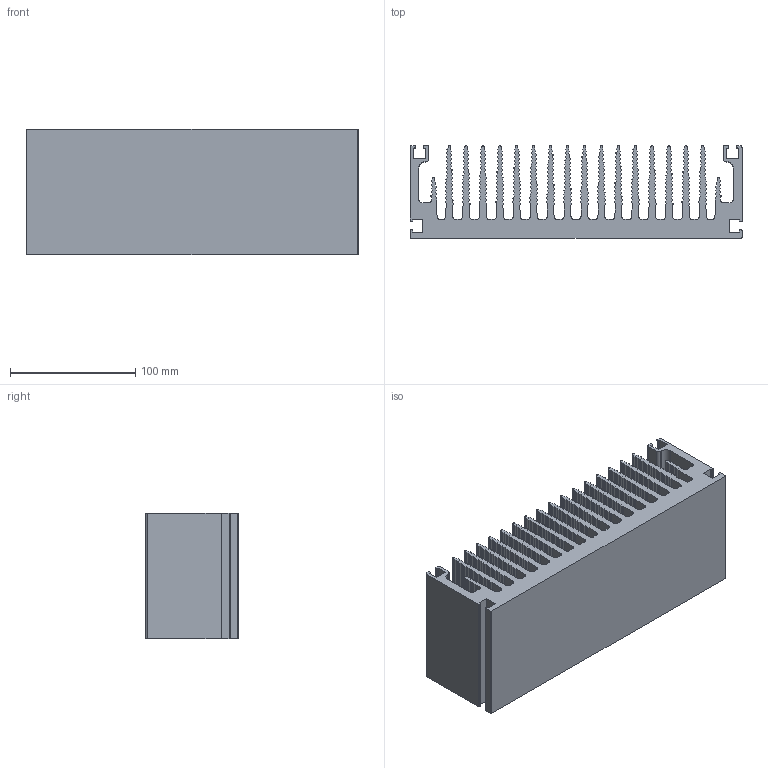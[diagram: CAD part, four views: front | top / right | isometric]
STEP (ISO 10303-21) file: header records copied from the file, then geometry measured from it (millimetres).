
FILE_DESCRIPTION (( 'STEP AP214' ), '1' );
FILE_NAME ('PR376.STEP', '2013-07-08T13:00:55', ( '' ), ( '' ), 'SwSTEP 2.0', 'SolidWorks 2013', '' );
FILE_SCHEMA (( 'AUTOMOTIVE_DESIGN' ));
Length unit declared in the file: millimetre
Products named in the file (1): PR376
Bounding box: 265 x 74 x 100 mm (x, y, z)
Volume: 927553.4 mm3; surface area: 317313.6 mm2
Topology: 1 solids, 1 shells, 1966 faces, 5892 edges, 3928 vertices
Faces by surface type: plane 1134, cylinder 832
Entity records: 66534 total; most frequent: CARTESIAN_POINT 11787, ORIENTED_EDGE 11784, DIRECTION 11490, EDGE_CURVE 5892, VECTOR 4228, LINE 4228, VERTEX_POINT 3928, AXIS2_PLACEMENT_3D 3631
